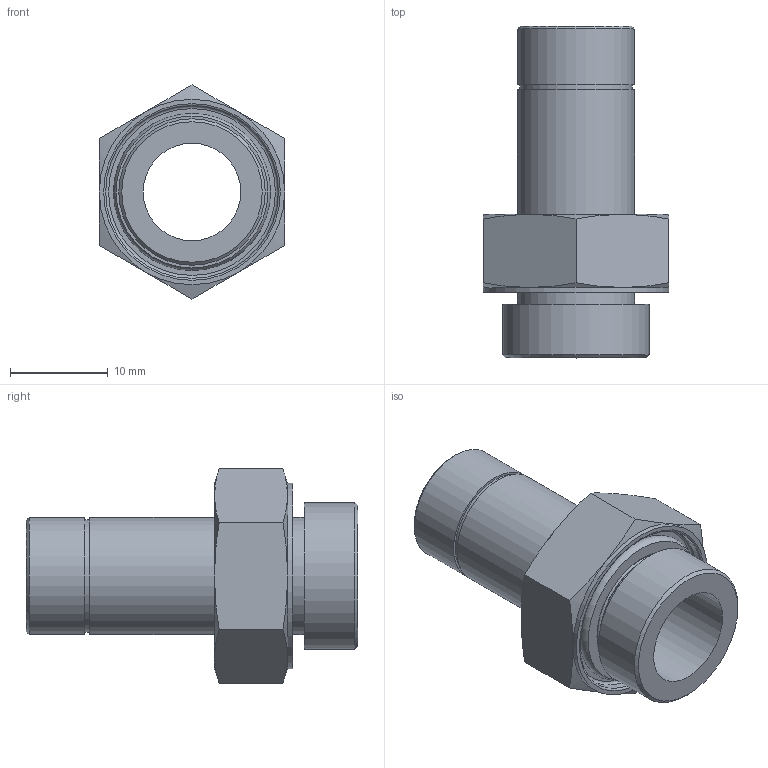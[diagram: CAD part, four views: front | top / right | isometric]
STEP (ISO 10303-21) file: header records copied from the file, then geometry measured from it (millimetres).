
FILE_DESCRIPTION(/* description */ (''),/* implementation_level */ '2;1');
FILE_NAME(/* name */ 'LXH16 0012 B3.stp',/* time_stamp */ '2026-04-29T14:49:54+02:00',/* author */ ('freju'),/* organization */ (''),/* preprocessor_version */ 'ST-DEVELOPER v20.1',/* originating_system */ 'Autodesk Inventor 2026',/* authorisation */ '');
FILE_SCHEMA (('AUTOMOTIVE_DESIGN { 1 0 10303 214 3 1 1 }'));
Length unit declared in the file: millimetre
Products named in the file (4): LXH16 0012 B3; LXH16 0012 B3_1; O-Ring; ISO 3601-1 - A 0125 G
Assembly tree (3 placements, depth 3):
  LXH16 0012 B3
    LXH16 0012 B3_1
    O-Ring
      ISO 3601-1 - A 0125 G
Bounding box: 19 x 34 x 21.94 mm (x, y, z)
Volume: 3026.7 mm3; surface area: 3545.3 mm2
Topology: 2 solids, 2 shells, 46 faces, 92 edges, 57 vertices
Faces by surface type: plane 17, cone 14, cylinder 9, torus 6
Full cylindrical faces by diameter (mm): 10 x1, 11.5 x1, 12 x3, 12.5 x1, 15 x1, 17.7 x1, 19 x1
Entity records: 1329 total; most frequent: CARTESIAN_POINT 250, DIRECTION 225, ORIENTED_EDGE 184, AXIS2_PLACEMENT_3D 104, EDGE_CURVE 92, EDGE_LOOP 57, VERTEX_POINT 57, CIRCLE 51
